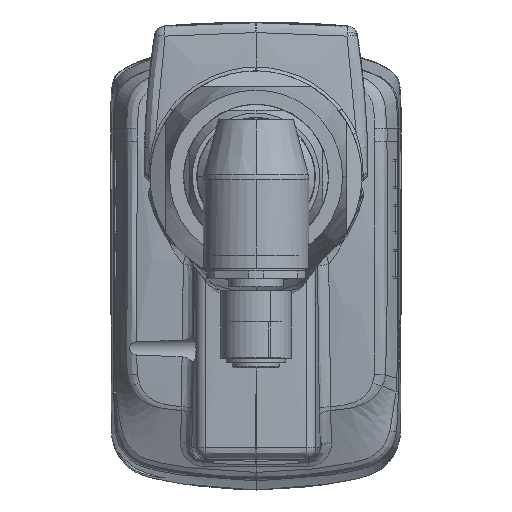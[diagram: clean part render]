
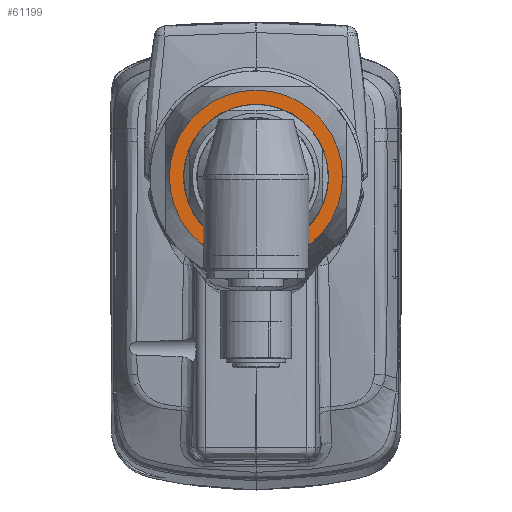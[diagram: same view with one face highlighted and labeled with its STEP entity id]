
A CAD part, front view. The second image highlights one B-rep face of the part: STEP entity #61199.
In plain terms, the highlighted planar face has unit normal (0, -1, 0).
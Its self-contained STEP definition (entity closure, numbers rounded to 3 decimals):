
#79 = CIRCLE ( 'NONE', #42657, 18.5 ) ;
#2848 = FACE_OUTER_BOUND ( 'NONE', #7942, .T. ) ;
#4184 = DIRECTION ( 'NONE',  ( 0., -1., 0. ) ) ;
#7942 = EDGE_LOOP ( 'NONE', ( #127850, #102715 ) ) ;
#10135 = EDGE_CURVE ( 'NONE', #79176, #93518, #81257, .T. ) ;
#12188 = CARTESIAN_POINT ( 'NONE',  ( 0., 18.55, 0. ) ) ;
#13784 = DIRECTION ( 'NONE',  ( -1., 0., 0. ) ) ;
#15070 = AXIS2_PLACEMENT_3D ( 'NONE', #12188, #4184, #52971 ) ;
#18074 = DIRECTION ( 'NONE',  ( -1., 0., 0. ) ) ;
#34507 = DIRECTION ( 'NONE',  ( 0., 1., 0. ) ) ;
#36298 = EDGE_CURVE ( 'NONE', #63349, #78390, #47364, .T. ) ;
#36476 = CARTESIAN_POINT ( 'NONE',  ( -22.1, 18.55, 0. ) ) ;
#41865 = EDGE_CURVE ( 'NONE', #93518, #79176, #79, .T. ) ;
#42657 = AXIS2_PLACEMENT_3D ( 'NONE', #130210, #49962, #82073 ) ;
#43848 = CARTESIAN_POINT ( 'NONE',  ( 0., 18.55, 0. ) ) ;
#47364 = CIRCLE ( 'NONE', #107190, 22.1 ) ;
#49962 = DIRECTION ( 'NONE',  ( 0., 1., 0. ) ) ;
#52971 = DIRECTION ( 'NONE',  ( 1., 0., 0. ) ) ;
#54778 = AXIS2_PLACEMENT_3D ( 'NONE', #80240, #101014, #18074 ) ;
#61199 = ADVANCED_FACE ( 'NONE', ( #125854, #2848 ), #75051, .T. ) ;
#63349 = VERTEX_POINT ( 'NONE', #36476 ) ;
#69752 = CIRCLE ( 'NONE', #54778, 22.1 ) ;
#70159 = DIRECTION ( 'NONE',  ( 0., 1., 0. ) ) ;
#71491 = DIRECTION ( 'NONE',  ( -1., 0., 0. ) ) ;
#73210 = ORIENTED_EDGE ( 'NONE', *, *, #41865, .T. ) ;
#75051 = PLANE ( 'NONE',  #15070 ) ;
#78390 = VERTEX_POINT ( 'NONE', #92145 ) ;
#79176 = VERTEX_POINT ( 'NONE', #113852 ) ;
#80240 = CARTESIAN_POINT ( 'NONE',  ( 0., 18.55, 0. ) ) ;
#81257 = CIRCLE ( 'NONE', #83316, 18.5 ) ;
#82073 = DIRECTION ( 'NONE',  ( -1., 0., 0. ) ) ;
#83316 = AXIS2_PLACEMENT_3D ( 'NONE', #43848, #34507, #13784 ) ;
#86056 = EDGE_CURVE ( 'NONE', #78390, #63349, #69752, .T. ) ;
#92145 = CARTESIAN_POINT ( 'NONE',  ( 22.1, 18.55, 0. ) ) ;
#93518 = VERTEX_POINT ( 'NONE', #126307 ) ;
#101014 = DIRECTION ( 'NONE',  ( 0., 1., 0. ) ) ;
#101777 = ORIENTED_EDGE ( 'NONE', *, *, #10135, .T. ) ;
#102715 = ORIENTED_EDGE ( 'NONE', *, *, #86056, .F. ) ;
#107190 = AXIS2_PLACEMENT_3D ( 'NONE', #132325, #70159, #71491 ) ;
#113287 = EDGE_LOOP ( 'NONE', ( #101777, #73210 ) ) ;
#113852 = CARTESIAN_POINT ( 'NONE',  ( -18.5, 18.55, 0. ) ) ;
#125854 = FACE_BOUND ( 'NONE', #113287, .T. ) ;
#126307 = CARTESIAN_POINT ( 'NONE',  ( 18.5, 18.55, 0. ) ) ;
#127850 = ORIENTED_EDGE ( 'NONE', *, *, #36298, .F. ) ;
#130210 = CARTESIAN_POINT ( 'NONE',  ( 0., 18.55, 0. ) ) ;
#132325 = CARTESIAN_POINT ( 'NONE',  ( 0., 18.55, 0. ) ) ;
